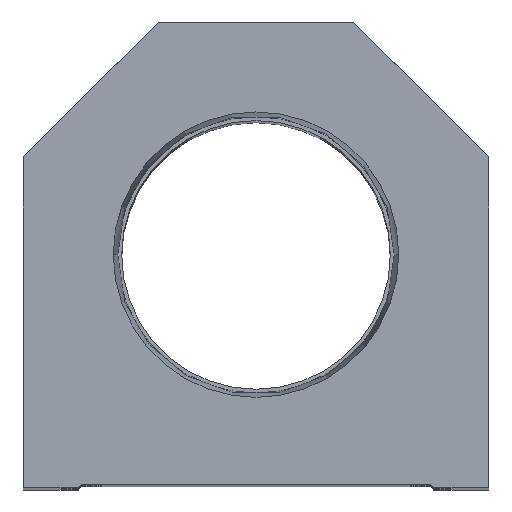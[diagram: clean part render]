
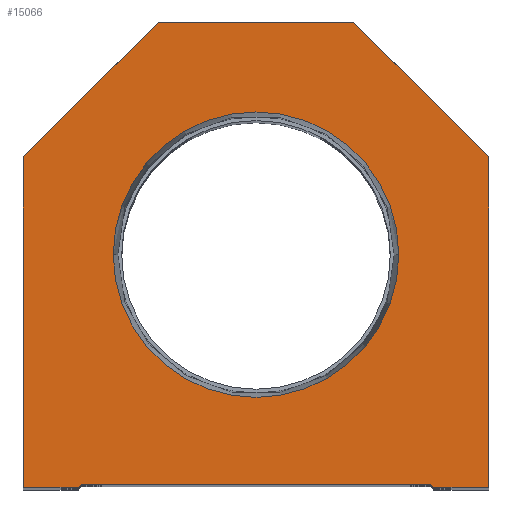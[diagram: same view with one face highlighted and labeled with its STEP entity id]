
A CAD part, top view. The second image highlights one B-rep face of the part: STEP entity #15066.
In plain terms, the highlighted planar face has unit normal (0, 0, 1).
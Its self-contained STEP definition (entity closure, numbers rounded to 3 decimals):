
#169 = EDGE_CURVE ( 'NONE', #11654, #10334, #2834, .T. ) ;
#183 = LINE ( 'NONE', #14414, #14002 ) ;
#447 = DIRECTION ( 'NONE',  ( 1., 0., 0. ) ) ;
#563 = PLANE ( 'NONE',  #9018 ) ;
#600 = LINE ( 'NONE', #15871, #9096 ) ;
#758 = VERTEX_POINT ( 'NONE', #14766 ) ;
#1002 = CARTESIAN_POINT ( 'NONE',  ( 38.1, 54.1, 0. ) ) ;
#1319 = CARTESIAN_POINT ( 'NONE',  ( 0., 38.1, 0. ) ) ;
#1475 = CARTESIAN_POINT ( 'NONE',  ( -29.1, 0., 0. ) ) ;
#1540 = CARTESIAN_POINT ( 'NONE',  ( 14.55, 14.55, 0. ) ) ;
#1610 = VECTOR ( 'NONE', #15914, 1000. ) ;
#1662 = DIRECTION ( 'NONE',  ( 0., 0., 1. ) ) ;
#2208 = ORIENTED_EDGE ( 'NONE', *, *, #8539, .T. ) ;
#2639 = DIRECTION ( 'NONE',  ( 0., 0., 1. ) ) ;
#2802 = CARTESIAN_POINT ( 'NONE',  ( 38.1, 0., 0. ) ) ;
#2834 = CIRCLE ( 'NONE', #17525, 23.374 ) ;
#2934 = FACE_BOUND ( 'NONE', #10282, .T. ) ;
#3011 = EDGE_CURVE ( 'NONE', #17117, #4562, #11453, .T. ) ;
#3025 = FACE_OUTER_BOUND ( 'NONE', #9368, .T. ) ;
#3230 = LINE ( 'NONE', #7394, #11486 ) ;
#3480 = DIRECTION ( 'NONE',  ( 0.707, 0.707, 0. ) ) ;
#3558 = ORIENTED_EDGE ( 'NONE', *, *, #169, .F. ) ;
#3711 = EDGE_CURVE ( 'NONE', #11974, #13555, #7698, .T. ) ;
#4148 = ORIENTED_EDGE ( 'NONE', *, *, #14080, .T. ) ;
#4295 = ORIENTED_EDGE ( 'NONE', *, *, #11262, .T. ) ;
#4436 = VECTOR ( 'NONE', #447, 1000. ) ;
#4539 = CARTESIAN_POINT ( 'NONE',  ( 16., 76.2, 0. ) ) ;
#4562 = VERTEX_POINT ( 'NONE', #1475 ) ;
#4819 = EDGE_CURVE ( 'NONE', #17321, #11974, #5611, .T. ) ;
#5210 = VECTOR ( 'NONE', #5841, 1000. ) ;
#5358 = DIRECTION ( 'NONE',  ( 1., 0., 0. ) ) ;
#5516 = DIRECTION ( 'NONE',  ( 0., 1., 0. ) ) ;
#5611 = LINE ( 'NONE', #1540, #7830 ) ;
#5753 = VERTEX_POINT ( 'NONE', #5879 ) ;
#5841 = DIRECTION ( 'NONE',  ( 1., 0., 0. ) ) ;
#5879 = CARTESIAN_POINT ( 'NONE',  ( -28.6, 0.5, 0. ) ) ;
#5962 = CARTESIAN_POINT ( 'NONE',  ( -28.6, 0.5, 0. ) ) ;
#6144 = VECTOR ( 'NONE', #11551, 1000. ) ;
#6665 = CARTESIAN_POINT ( 'NONE',  ( 38.1, 0., 0. ) ) ;
#6842 = DIRECTION ( 'NONE',  ( 0., 0., 1. ) ) ;
#7338 = CARTESIAN_POINT ( 'NONE',  ( 23.374, 38.1, 0. ) ) ;
#7394 = CARTESIAN_POINT ( 'NONE',  ( -38.1, 54.1, 0. ) ) ;
#7522 = CARTESIAN_POINT ( 'NONE',  ( 16., 76.2, 0. ) ) ;
#7628 = ORIENTED_EDGE ( 'NONE', *, *, #10461, .T. ) ;
#7698 = LINE ( 'NONE', #13263, #5210 ) ;
#7830 = VECTOR ( 'NONE', #11110, 1000. ) ;
#8236 = CARTESIAN_POINT ( 'NONE',  ( -23.374, 38.1, 0. ) ) ;
#8539 = EDGE_CURVE ( 'NONE', #5753, #17321, #12945, .T. ) ;
#8662 = ORIENTED_EDGE ( 'NONE', *, *, #4819, .T. ) ;
#8696 = EDGE_CURVE ( 'NONE', #10334, #11654, #13627, .T. ) ;
#9018 = AXIS2_PLACEMENT_3D ( 'NONE', #16765, #1662, #11480 ) ;
#9096 = VECTOR ( 'NONE', #3480, 1000. ) ;
#9253 = EDGE_CURVE ( 'NONE', #13555, #16401, #17880, .T. ) ;
#9368 = EDGE_LOOP ( 'NONE', ( #9714, #17289, #2208, #8662, #9532, #13455, #7628, #4148, #4295, #10337 ) ) ;
#9532 = ORIENTED_EDGE ( 'NONE', *, *, #3711, .T. ) ;
#9714 = ORIENTED_EDGE ( 'NONE', *, *, #3011, .T. ) ;
#10282 = EDGE_LOOP ( 'NONE', ( #3558, #14904 ) ) ;
#10334 = VERTEX_POINT ( 'NONE', #8236 ) ;
#10337 = ORIENTED_EDGE ( 'NONE', *, *, #17072, .T. ) ;
#10361 = DIRECTION ( 'NONE',  ( 1., 0., 0. ) ) ;
#10391 = CARTESIAN_POINT ( 'NONE',  ( -38.1, 0., 0. ) ) ;
#10461 = EDGE_CURVE ( 'NONE', #16401, #11504, #183, .T. ) ;
#11110 = DIRECTION ( 'NONE',  ( 0.707, -0.707, 0. ) ) ;
#11262 = EDGE_CURVE ( 'NONE', #758, #14729, #3230, .T. ) ;
#11366 = VECTOR ( 'NONE', #5516, 1000. ) ;
#11453 = LINE ( 'NONE', #16993, #17576 ) ;
#11480 = DIRECTION ( 'NONE',  ( 1., 0., 0. ) ) ;
#11486 = VECTOR ( 'NONE', #12861, 1000. ) ;
#11504 = VERTEX_POINT ( 'NONE', #7522 ) ;
#11551 = DIRECTION ( 'NONE',  ( -1., 0., 0. ) ) ;
#11654 = VERTEX_POINT ( 'NONE', #7338 ) ;
#11702 = DIRECTION ( 'NONE',  ( -0.707, 0.707, 0. ) ) ;
#11974 = VERTEX_POINT ( 'NONE', #17036 ) ;
#12371 = CARTESIAN_POINT ( 'NONE',  ( 0., 38.1, 0. ) ) ;
#12861 = DIRECTION ( 'NONE',  ( -0.707, -0.707, 0. ) ) ;
#12945 = LINE ( 'NONE', #5962, #4436 ) ;
#13146 = DIRECTION ( 'NONE',  ( 1., 0., 0. ) ) ;
#13263 = CARTESIAN_POINT ( 'NONE',  ( 28.6, 0., 0. ) ) ;
#13332 = CARTESIAN_POINT ( 'NONE',  ( -38.1, 54.1, 0. ) ) ;
#13455 = ORIENTED_EDGE ( 'NONE', *, *, #9253, .T. ) ;
#13555 = VERTEX_POINT ( 'NONE', #6665 ) ;
#13627 = CIRCLE ( 'NONE', #15977, 23.374 ) ;
#14002 = VECTOR ( 'NONE', #11702, 1000. ) ;
#14080 = EDGE_CURVE ( 'NONE', #11504, #758, #16927, .T. ) ;
#14414 = CARTESIAN_POINT ( 'NONE',  ( 38.1, 54.1, 0. ) ) ;
#14592 = CARTESIAN_POINT ( 'NONE',  ( 28.6, 0.5, 0. ) ) ;
#14729 = VERTEX_POINT ( 'NONE', #13332 ) ;
#14766 = CARTESIAN_POINT ( 'NONE',  ( -16., 76.2, 0. ) ) ;
#14899 = LINE ( 'NONE', #17265, #1610 ) ;
#14904 = ORIENTED_EDGE ( 'NONE', *, *, #8696, .F. ) ;
#15066 = ADVANCED_FACE ( 'NONE', ( #2934, #3025 ), #563, .T. ) ;
#15871 = CARTESIAN_POINT ( 'NONE',  ( -14.55, 14.55, 0. ) ) ;
#15914 = DIRECTION ( 'NONE',  ( 0., -1., 0. ) ) ;
#15977 = AXIS2_PLACEMENT_3D ( 'NONE', #1319, #6842, #10361 ) ;
#16401 = VERTEX_POINT ( 'NONE', #1002 ) ;
#16502 = EDGE_CURVE ( 'NONE', #4562, #5753, #600, .T. ) ;
#16765 = CARTESIAN_POINT ( 'NONE',  ( 0., 0., 0. ) ) ;
#16927 = LINE ( 'NONE', #4539, #6144 ) ;
#16993 = CARTESIAN_POINT ( 'NONE',  ( -28.6, 0., 0. ) ) ;
#17036 = CARTESIAN_POINT ( 'NONE',  ( 29.1, 0., 0. ) ) ;
#17072 = EDGE_CURVE ( 'NONE', #14729, #17117, #14899, .T. ) ;
#17117 = VERTEX_POINT ( 'NONE', #10391 ) ;
#17265 = CARTESIAN_POINT ( 'NONE',  ( -38.1, 0., 0. ) ) ;
#17289 = ORIENTED_EDGE ( 'NONE', *, *, #16502, .T. ) ;
#17321 = VERTEX_POINT ( 'NONE', #14592 ) ;
#17525 = AXIS2_PLACEMENT_3D ( 'NONE', #12371, #2639, #5358 ) ;
#17576 = VECTOR ( 'NONE', #13146, 1000. ) ;
#17880 = LINE ( 'NONE', #2802, #11366 ) ;
